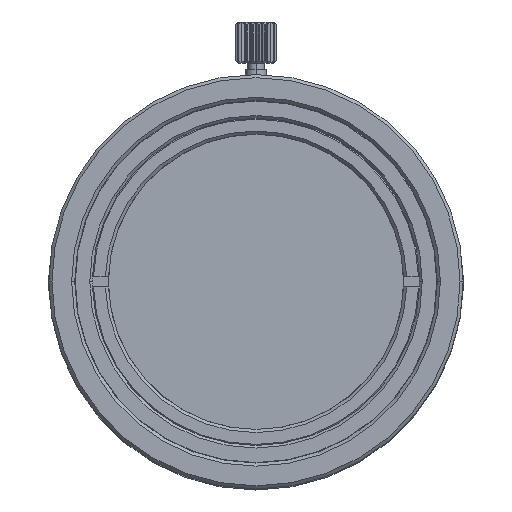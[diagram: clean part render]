
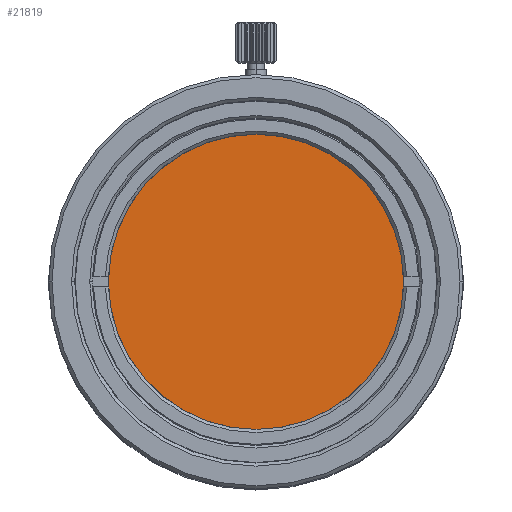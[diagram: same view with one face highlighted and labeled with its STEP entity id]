
A CAD part, top view. The second image highlights one B-rep face of the part: STEP entity #21819.
In plain terms, the highlighted planar face has unit normal (0, 0, 1).
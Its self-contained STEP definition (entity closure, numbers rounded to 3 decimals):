
#1470 = VERTEX_POINT ( 'NONE', #15101 ) ;
#1867 = AXIS2_PLACEMENT_3D ( 'NONE', #16614, #5990, #6212 ) ;
#3155 = CIRCLE ( 'NONE', #4726, 14.25 ) ;
#3182 = EDGE_CURVE ( 'NONE', #1470, #3615, #3155, .T. ) ;
#3615 = VERTEX_POINT ( 'NONE', #21253 ) ;
#3773 = CARTESIAN_POINT ( 'NONE',  ( 0., 0., 57.142 ) ) ;
#3838 = FACE_OUTER_BOUND ( 'NONE', #4381, .T. ) ;
#4003 = DIRECTION ( 'NONE',  ( 0., 0., -1. ) ) ;
#4381 = EDGE_LOOP ( 'NONE', ( #11954, #14023 ) ) ;
#4726 = AXIS2_PLACEMENT_3D ( 'NONE', #6403, #13377, #18579 ) ;
#5990 = DIRECTION ( 'NONE',  ( 0., 0., -1. ) ) ;
#6212 = DIRECTION ( 'NONE',  ( -1., 0., 0. ) ) ;
#6403 = CARTESIAN_POINT ( 'NONE',  ( 0., 0., 57.142 ) ) ;
#6514 = CIRCLE ( 'NONE', #1867, 14.25 ) ;
#9197 = DIRECTION ( 'NONE',  ( -1., 0., 0. ) ) ;
#11954 = ORIENTED_EDGE ( 'NONE', *, *, #3182, .F. ) ;
#13377 = DIRECTION ( 'NONE',  ( 0., 0., -1. ) ) ;
#13852 = EDGE_CURVE ( 'NONE', #3615, #1470, #6514, .T. ) ;
#14023 = ORIENTED_EDGE ( 'NONE', *, *, #13852, .F. ) ;
#15101 = CARTESIAN_POINT ( 'NONE',  ( 14.25, 0., 57.142 ) ) ;
#15822 = AXIS2_PLACEMENT_3D ( 'NONE', #3773, #4003, #9197 ) ;
#16614 = CARTESIAN_POINT ( 'NONE',  ( 0., 0., 57.142 ) ) ;
#18579 = DIRECTION ( 'NONE',  ( -1., 0., 0. ) ) ;
#21253 = CARTESIAN_POINT ( 'NONE',  ( -14.25, 0., 57.142 ) ) ;
#21290 = PLANE ( 'NONE',  #15822 ) ;
#21819 = ADVANCED_FACE ( 'NONE', ( #3838 ), #21290, .F. ) ;
